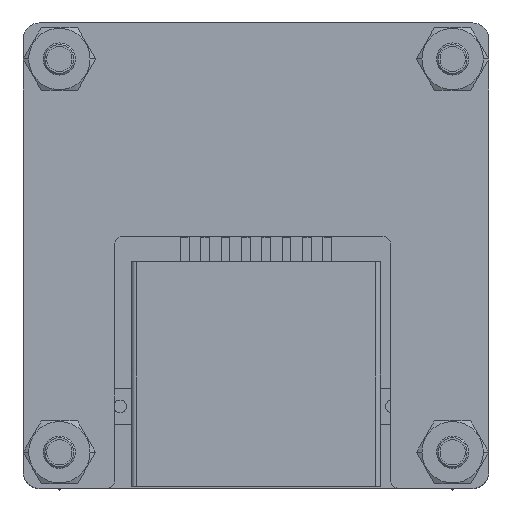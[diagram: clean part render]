
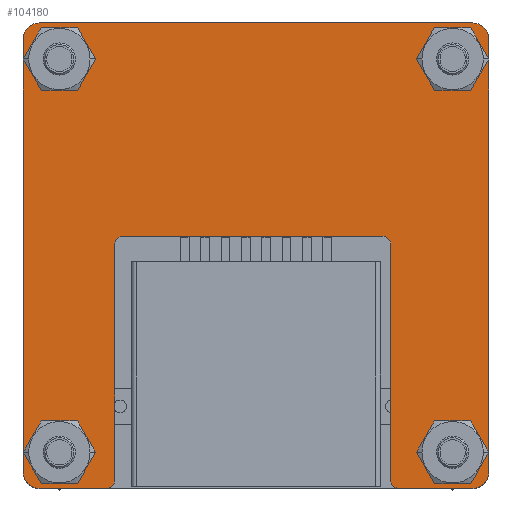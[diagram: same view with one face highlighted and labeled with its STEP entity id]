
A CAD part, top view. The second image highlights one B-rep face of the part: STEP entity #104180.
In plain terms, the highlighted planar face has unit normal (0, 0, 1).
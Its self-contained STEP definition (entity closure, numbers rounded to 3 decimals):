
#103721=CARTESIAN_POINT('',(-12.25,-12.25,19.5));
#103722=DIRECTION('',(0.,0.,1.));
#103723=DIRECTION('',(1.,0.,0.));
#103724=AXIS2_PLACEMENT_3D('',#103721,#103722,#103723);
#103726=CARTESIAN_POINT('',(-12.25,-12.25,19.5));
#103727=DIRECTION('',(0.,0.,1.));
#103728=DIRECTION('',(-1.,0.,0.));
#103729=AXIS2_PLACEMENT_3D('',#103726,#103727,#103728);
#103731=CARTESIAN_POINT('',(-12.25,12.25,19.5));
#103732=DIRECTION('',(0.,0.,1.));
#103733=DIRECTION('',(1.,0.,0.));
#103734=AXIS2_PLACEMENT_3D('',#103731,#103732,#103733);
#103736=CARTESIAN_POINT('',(-12.25,12.25,19.5));
#103737=DIRECTION('',(0.,0.,1.));
#103738=DIRECTION('',(-1.,0.,0.));
#103739=AXIS2_PLACEMENT_3D('',#103736,#103737,#103738);
#103741=CARTESIAN_POINT('',(12.25,12.25,19.5));
#103742=DIRECTION('',(0.,0.,1.));
#103743=DIRECTION('',(1.,0.,0.));
#103744=AXIS2_PLACEMENT_3D('',#103741,#103742,#103743);
#103746=CARTESIAN_POINT('',(12.25,12.25,19.5));
#103747=DIRECTION('',(0.,0.,1.));
#103748=DIRECTION('',(-1.,0.,0.));
#103749=AXIS2_PLACEMENT_3D('',#103746,#103747,#103748);
#103751=CARTESIAN_POINT('',(12.25,-12.25,19.5));
#103752=DIRECTION('',(0.,0.,1.));
#103753=DIRECTION('',(1.,0.,0.));
#103754=AXIS2_PLACEMENT_3D('',#103751,#103752,#103753);
#103756=CARTESIAN_POINT('',(12.25,-12.25,19.5));
#103757=DIRECTION('',(0.,0.,1.));
#103758=DIRECTION('',(-1.,0.,0.));
#103759=AXIS2_PLACEMENT_3D('',#103756,#103757,#103758);
#103761=CARTESIAN_POINT('',(-9.3,-14.,19.5));
#103762=DIRECTION('',(0.,0.,1.));
#103763=DIRECTION('',(0.,-1.,0.));
#103764=AXIS2_PLACEMENT_3D('',#103761,#103762,#103763);
#103766=DIRECTION('',(1.,0.,0.));
#103767=VECTOR('',#103766,4.2);
#103768=CARTESIAN_POINT('',(-13.5,-14.5,19.5));
#103769=LINE('',#103768,#103767);
#103770=CARTESIAN_POINT('',(-13.5,-13.5,19.5));
#103771=DIRECTION('',(0.,0.,1.));
#103772=DIRECTION('',(-1.,0.,0.));
#103773=AXIS2_PLACEMENT_3D('',#103770,#103771,#103772);
#103775=DIRECTION('',(0.,-1.,0.));
#103776=VECTOR('',#103775,27.);
#103777=CARTESIAN_POINT('',(-14.5,13.5,19.5));
#103778=LINE('',#103777,#103776);
#103779=CARTESIAN_POINT('',(-13.5,13.5,19.5));
#103780=DIRECTION('',(0.,0.,1.));
#103781=DIRECTION('',(0.,1.,0.));
#103782=AXIS2_PLACEMENT_3D('',#103779,#103780,#103781);
#103784=DIRECTION('',(-1.,0.,0.));
#103785=VECTOR('',#103784,27.);
#103786=CARTESIAN_POINT('',(13.5,14.5,19.5));
#103787=LINE('',#103786,#103785);
#103788=CARTESIAN_POINT('',(13.5,13.5,19.5));
#103789=DIRECTION('',(0.,0.,1.));
#103790=DIRECTION('',(1.,0.,0.));
#103791=AXIS2_PLACEMENT_3D('',#103788,#103789,#103790);
#103793=DIRECTION('',(0.,1.,0.));
#103794=VECTOR('',#103793,27.);
#103795=CARTESIAN_POINT('',(14.5,-13.5,19.5));
#103796=LINE('',#103795,#103794);
#103797=CARTESIAN_POINT('',(13.5,-13.5,19.5));
#103798=DIRECTION('',(0.,0.,1.));
#103799=DIRECTION('',(0.,-1.,0.));
#103800=AXIS2_PLACEMENT_3D('',#103797,#103798,#103799);
#103802=DIRECTION('',(1.,0.,0.));
#103803=VECTOR('',#103802,4.6);
#103804=CARTESIAN_POINT('',(8.9,-14.5,19.5));
#103805=LINE('',#103804,#103803);
#103806=CARTESIAN_POINT('',(8.9,-14.,19.5));
#103807=DIRECTION('',(0.,0.,1.));
#103808=DIRECTION('',(-1.,0.,0.));
#103809=AXIS2_PLACEMENT_3D('',#103806,#103807,#103808);
#103811=DIRECTION('',(0.,1.,0.));
#103812=VECTOR('',#103811,14.7);
#103813=CARTESIAN_POINT('',(8.4,-14.,19.5));
#103814=LINE('',#103813,#103812);
#103815=DIRECTION('',(-1.,0.,0.));
#103816=VECTOR('',#103815,16.2);
#103817=CARTESIAN_POINT('',(7.9,1.2,19.5));
#103818=LINE('',#103817,#103816);
#103819=DIRECTION('',(0.,1.,0.));
#103820=VECTOR('',#103819,14.7);
#103821=CARTESIAN_POINT('',(-8.8,-14.,19.5));
#103822=LINE('',#103821,#103820);
#103855=CARTESIAN_POINT('',(-8.3,0.7,19.5));
#103856=DIRECTION('',(0.,0.,-1.));
#103857=DIRECTION('',(-1.,0.,0.));
#103858=AXIS2_PLACEMENT_3D('',#103855,#103856,#103857);
#103873=CARTESIAN_POINT('',(7.9,0.7,19.5));
#103874=DIRECTION('',(0.,0.,-1.));
#103875=DIRECTION('',(0.,1.,0.));
#103876=AXIS2_PLACEMENT_3D('',#103873,#103874,#103875);
#103943=CARTESIAN_POINT('',(-10.75,-12.25,19.5));
#103944=CARTESIAN_POINT('',(-13.75,-12.25,19.5));
#103945=VERTEX_POINT('',#103943);
#103946=VERTEX_POINT('',#103944);
#103947=CARTESIAN_POINT('',(-10.75,12.25,19.5));
#103948=CARTESIAN_POINT('',(-13.75,12.25,19.5));
#103949=VERTEX_POINT('',#103947);
#103950=VERTEX_POINT('',#103948);
#103951=CARTESIAN_POINT('',(13.75,12.25,19.5));
#103952=CARTESIAN_POINT('',(10.75,12.25,19.5));
#103953=VERTEX_POINT('',#103951);
#103954=VERTEX_POINT('',#103952);
#103959=CARTESIAN_POINT('',(13.75,-12.25,19.5));
#103960=CARTESIAN_POINT('',(10.75,-12.25,19.5));
#103961=VERTEX_POINT('',#103959);
#103962=VERTEX_POINT('',#103960);
#103967=CARTESIAN_POINT('',(-13.5,14.5,19.5));
#103968=VERTEX_POINT('',#103967);
#103969=CARTESIAN_POINT('',(-14.5,13.5,19.5));
#103970=VERTEX_POINT('',#103969);
#103975=CARTESIAN_POINT('',(14.5,13.5,19.5));
#103976=VERTEX_POINT('',#103975);
#103977=CARTESIAN_POINT('',(13.5,14.5,19.5));
#103978=VERTEX_POINT('',#103977);
#103983=CARTESIAN_POINT('',(13.5,-14.5,19.5));
#103984=VERTEX_POINT('',#103983);
#103985=CARTESIAN_POINT('',(14.5,-13.5,19.5));
#103986=VERTEX_POINT('',#103985);
#103991=CARTESIAN_POINT('',(-14.5,-13.5,19.5));
#103992=VERTEX_POINT('',#103991);
#103993=CARTESIAN_POINT('',(-13.5,-14.5,19.5));
#103994=VERTEX_POINT('',#103993);
#103995=CARTESIAN_POINT('',(-8.8,0.7,19.5));
#103997=VERTEX_POINT('',#103995);
#103999=CARTESIAN_POINT('',(-8.3,1.2,19.5));
#104001=VERTEX_POINT('',#103999);
#104005=CARTESIAN_POINT('',(7.9,1.2,19.5));
#104006=VERTEX_POINT('',#104005);
#104007=CARTESIAN_POINT('',(8.4,0.7,19.5));
#104009=VERTEX_POINT('',#104007);
#104011=CARTESIAN_POINT('',(-9.3,-14.5,19.5));
#104012=CARTESIAN_POINT('',(-8.8,-14.,19.5));
#104013=VERTEX_POINT('',#104011);
#104014=VERTEX_POINT('',#104012);
#104023=CARTESIAN_POINT('',(8.4,-14.,19.5));
#104024=VERTEX_POINT('',#104023);
#104025=CARTESIAN_POINT('',(8.9,-14.5,19.5));
#104026=VERTEX_POINT('',#104025);
#104119=CARTESIAN_POINT('',(0.,0.,19.5));
#104120=DIRECTION('',(0.,0.,1.));
#104121=DIRECTION('',(1.,0.,0.));
#104122=AXIS2_PLACEMENT_3D('',#104119,#104120,#104121);
#104123=PLANE('',#104122);
#104125=ORIENTED_EDGE('',*,*,#104124,.F.);
#104127=ORIENTED_EDGE('',*,*,#104126,.F.);
#104129=ORIENTED_EDGE('',*,*,#104128,.F.);
#104131=ORIENTED_EDGE('',*,*,#104130,.F.);
#104133=ORIENTED_EDGE('',*,*,#104132,.F.);
#104135=ORIENTED_EDGE('',*,*,#104134,.F.);
#104137=ORIENTED_EDGE('',*,*,#104136,.F.);
#104139=ORIENTED_EDGE('',*,*,#104138,.F.);
#104141=ORIENTED_EDGE('',*,*,#104140,.F.);
#104143=ORIENTED_EDGE('',*,*,#104142,.F.);
#104145=ORIENTED_EDGE('',*,*,#104144,.F.);
#104147=ORIENTED_EDGE('',*,*,#104146,.T.);
#104149=ORIENTED_EDGE('',*,*,#104148,.F.);
#104151=ORIENTED_EDGE('',*,*,#104150,.T.);
#104153=ORIENTED_EDGE('',*,*,#104152,.F.);
#104155=ORIENTED_EDGE('',*,*,#104154,.F.);
#104156=EDGE_LOOP('',(#104125,#104127,#104129,#104131,#104133,#104135,#104137,
#104139,#104141,#104143,#104145,#104147,#104149,#104151,#104153,#104155));
#104157=FACE_OUTER_BOUND('',#104156,.F.);
#104159=ORIENTED_EDGE('',*,*,#104158,.T.);
#104161=ORIENTED_EDGE('',*,*,#104160,.T.);
#104162=EDGE_LOOP('',(#104159,#104161));
#104163=FACE_BOUND('',#104162,.F.);
#104165=ORIENTED_EDGE('',*,*,#104164,.T.);
#104167=ORIENTED_EDGE('',*,*,#104166,.T.);
#104168=EDGE_LOOP('',(#104165,#104167));
#104169=FACE_BOUND('',#104168,.F.);
#104171=ORIENTED_EDGE('',*,*,#104170,.T.);
#104173=ORIENTED_EDGE('',*,*,#104172,.T.);
#104174=EDGE_LOOP('',(#104171,#104173));
#104175=FACE_BOUND('',#104174,.F.);
#104176=ORIENTED_EDGE('',*,*,#104099,.T.);
#104177=ORIENTED_EDGE('',*,*,#104113,.T.);
#104178=EDGE_LOOP('',(#104176,#104177));
#104179=FACE_BOUND('',#104178,.F.);
#104180=ADVANCED_FACE('',(#104157,#104163,#104169,#104175,#104179),#104123,.T.);
#103725=CIRCLE('',#103724,1.5);
#103730=CIRCLE('',#103729,1.5);
#103735=CIRCLE('',#103734,1.5);
#103740=CIRCLE('',#103739,1.5);
#103745=CIRCLE('',#103744,1.5);
#103750=CIRCLE('',#103749,1.5);
#103755=CIRCLE('',#103754,1.5);
#103760=CIRCLE('',#103759,1.5);
#103765=CIRCLE('',#103764,0.5);
#103774=CIRCLE('',#103773,1.);
#103783=CIRCLE('',#103782,1.);
#103792=CIRCLE('',#103791,1.);
#103801=CIRCLE('',#103800,1.);
#103810=CIRCLE('',#103809,0.5);
#103859=CIRCLE('',#103858,0.5);
#103877=CIRCLE('',#103876,0.5);
#104099=EDGE_CURVE('',#103945,#103946,#103725,.T.);
#104113=EDGE_CURVE('',#103946,#103945,#103730,.T.);
#104124=EDGE_CURVE('',#104013,#104014,#103765,.T.);
#104126=EDGE_CURVE('',#103994,#104013,#103769,.T.);
#104128=EDGE_CURVE('',#103992,#103994,#103774,.T.);
#104130=EDGE_CURVE('',#103970,#103992,#103778,.T.);
#104132=EDGE_CURVE('',#103968,#103970,#103783,.T.);
#104134=EDGE_CURVE('',#103978,#103968,#103787,.T.);
#104136=EDGE_CURVE('',#103976,#103978,#103792,.T.);
#104138=EDGE_CURVE('',#103986,#103976,#103796,.T.);
#104140=EDGE_CURVE('',#103984,#103986,#103801,.T.);
#104142=EDGE_CURVE('',#104026,#103984,#103805,.T.);
#104144=EDGE_CURVE('',#104024,#104026,#103810,.T.);
#104146=EDGE_CURVE('',#104024,#104009,#103814,.T.);
#104148=EDGE_CURVE('',#104006,#104009,#103877,.T.);
#104150=EDGE_CURVE('',#104006,#104001,#103818,.T.);
#104152=EDGE_CURVE('',#103997,#104001,#103859,.T.);
#104154=EDGE_CURVE('',#104014,#103997,#103822,.T.);
#104158=EDGE_CURVE('',#103949,#103950,#103735,.T.);
#104160=EDGE_CURVE('',#103950,#103949,#103740,.T.);
#104164=EDGE_CURVE('',#103953,#103954,#103745,.T.);
#104166=EDGE_CURVE('',#103954,#103953,#103750,.T.);
#104170=EDGE_CURVE('',#103961,#103962,#103755,.T.);
#104172=EDGE_CURVE('',#103962,#103961,#103760,.T.);
